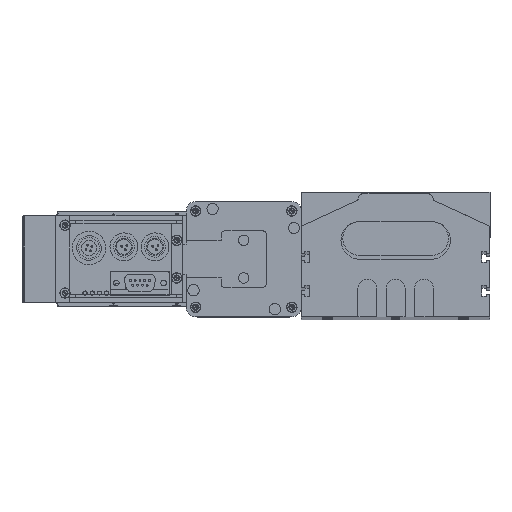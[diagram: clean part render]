
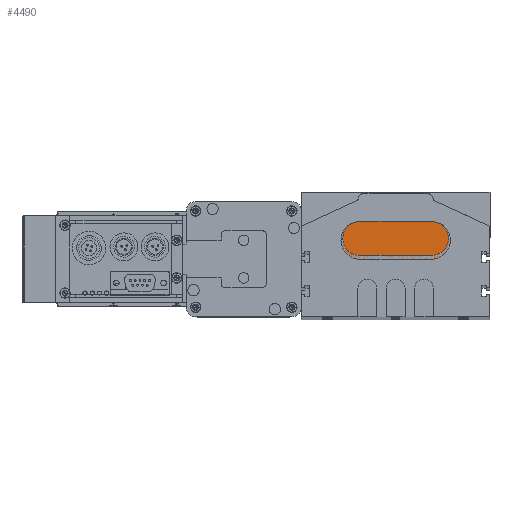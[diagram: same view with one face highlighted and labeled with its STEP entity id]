
A CAD part, top view. The second image highlights one B-rep face of the part: STEP entity #4490.
In plain terms, the highlighted planar face has unit normal (0, 0, 1).
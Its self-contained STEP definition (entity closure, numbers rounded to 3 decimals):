
#274 = VERTEX_POINT ( 'NONE', #34687 ) ;
#285 = EDGE_CURVE ( 'NONE', #300, #274, #34737, .T. ) ;
#300 = VERTEX_POINT ( 'NONE', #34782 ) ;
#308 = EDGE_CURVE ( 'NONE', #344, #300, #34766, .T. ) ;
#330 = VERTEX_POINT ( 'NONE', #34795 ) ;
#344 = VERTEX_POINT ( 'NONE', #34853 ) ;
#358 = ORIENTED_EDGE ( 'NONE', *, *, #285, .T. ) ;
#364 = ORIENTED_EDGE ( 'NONE', *, *, #4531, .T. ) ;
#397 = EDGE_CURVE ( 'NONE', #330, #399, #34953, .T. ) ;
#399 = VERTEX_POINT ( 'NONE', #34942 ) ;
#405 = EDGE_CURVE ( 'NONE', #274, #330, #34987, .T. ) ;
#469 = ORIENTED_EDGE ( 'NONE', *, *, #397, .T. ) ;
#474 = EDGE_LOOP ( 'NONE', ( #4518, #358, #4483, #469, #364 ) ) ;
#4483 = ORIENTED_EDGE ( 'NONE', *, *, #405, .T. ) ;
#4490 = ADVANCED_FACE ( 'NONE', ( #9246 ), #9188, .T. ) ;
#4518 = ORIENTED_EDGE ( 'NONE', *, *, #308, .T. ) ;
#4531 = EDGE_CURVE ( 'NONE', #399, #344, #9265, .T. ) ;
#9176 = CARTESIAN_POINT ( 'NONE',  ( 0., 10., 10. ) ) ;
#9188 = PLANE ( 'NONE',  #9248 ) ;
#9241 = DIRECTION ( 'NONE',  ( 1., 0., 0. ) ) ;
#9242 = DIRECTION ( 'NONE',  ( 0., 0., 1. ) ) ;
#9246 = FACE_OUTER_BOUND ( 'NONE', #474, .T. ) ;
#9248 = AXIS2_PLACEMENT_3D ( 'NONE', #9176, #9242, #9241 ) ;
#9262 = VECTOR ( 'NONE', #9273, 1000. ) ;
#9265 = LINE ( 'NONE', #9267, #9262 ) ;
#9267 = CARTESIAN_POINT ( 'NONE',  ( 0., 20., 10. ) ) ;
#9273 = DIRECTION ( 'NONE',  ( -1., 0., 0. ) ) ;
#34687 = CARTESIAN_POINT ( 'NONE',  ( 0., 0., 10. ) ) ;
#34728 = CARTESIAN_POINT ( 'NONE',  ( 0., 10., 10. ) ) ;
#34737 = CIRCLE ( 'NONE', #34793, 10. ) ;
#34761 = AXIS2_PLACEMENT_3D ( 'NONE', #34767, #34765, #34822 ) ;
#34765 = DIRECTION ( 'NONE',  ( 0., 0., 1. ) ) ;
#34766 = CIRCLE ( 'NONE', #34761, 10. ) ;
#34767 = CARTESIAN_POINT ( 'NONE',  ( 0., 10., 10. ) ) ;
#34782 = CARTESIAN_POINT ( 'NONE',  ( -10., 10., 10. ) ) ;
#34785 = DIRECTION ( 'NONE',  ( 1., 0., 0. ) ) ;
#34787 = DIRECTION ( 'NONE',  ( 0., 0., 1. ) ) ;
#34793 = AXIS2_PLACEMENT_3D ( 'NONE', #34728, #34787, #34785 ) ;
#34795 = CARTESIAN_POINT ( 'NONE',  ( 38., 0., 10. ) ) ;
#34822 = DIRECTION ( 'NONE',  ( 1., 0., 0. ) ) ;
#34853 = CARTESIAN_POINT ( 'NONE',  ( 0., 20., 10. ) ) ;
#34942 = CARTESIAN_POINT ( 'NONE',  ( 38., 20., 10. ) ) ;
#34953 = CIRCLE ( 'NONE', #35010, 10. ) ;
#34985 = DIRECTION ( 'NONE',  ( 1., 0., 0. ) ) ;
#34986 = CARTESIAN_POINT ( 'NONE',  ( 0., 0., 10. ) ) ;
#34987 = LINE ( 'NONE', #34986, #35003 ) ;
#35003 = VECTOR ( 'NONE', #34985, 1000. ) ;
#35006 = DIRECTION ( 'NONE',  ( -1., 0., 0. ) ) ;
#35007 = DIRECTION ( 'NONE',  ( 0., 0., 1. ) ) ;
#35008 = CARTESIAN_POINT ( 'NONE',  ( 38., 10., 10. ) ) ;
#35010 = AXIS2_PLACEMENT_3D ( 'NONE', #35008, #35007, #35006 ) ;
